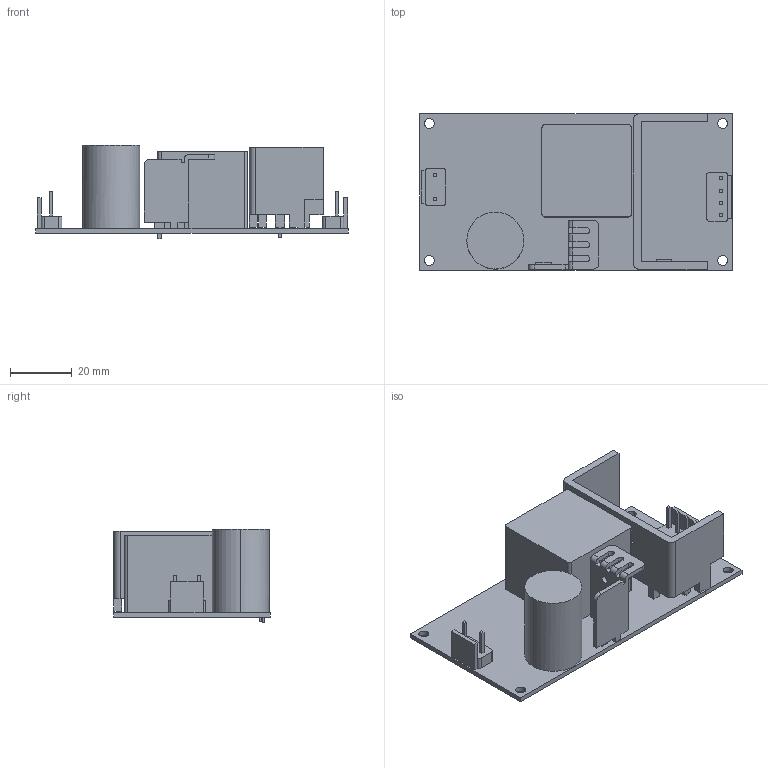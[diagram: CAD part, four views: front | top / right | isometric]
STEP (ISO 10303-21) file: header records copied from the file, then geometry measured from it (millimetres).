
FILE_DESCRIPTION(('Creo Elements/Direct Modeling STEP Export'),'2;1');
FILE_NAME('EPS-45.stp','2022-06-01T11:51:56',(''),(''),'PTC Creo Elements/Direct Modeling STEP processor for AP214 (Solid Model)','PTC Creo Elements/Direct Modeling 19.0E 27-Jun-2016 (C) Parametric Technology GmbH','');
FILE_SCHEMA(('AUTOMOTIVE_DESIGN { 1 0 10303 214 1 1 1 1 }'));
Length unit declared in the file: millimetre
Products named in the file (16): PCB_PRT_1_PRT.PRT; CN2-26510_PRT_PRT.PRT; CN2-26840_ASM_ASM.ASM; CN1-34090_PRT_PRT.PRT; CN1-34420_ASM_ASM.ASM; C5_PRT.PRT; T1_PRT.PRT; HS2_PRT.PRT; PIN2-2_PRT.PRT; _X2_88C5914D_X0_1_ASM.ASM; HS1_PRT.PRT; PIN2-2_1_PRT.PRT; _X2_88C5914D_X0_2_ASM.ASM; EPS-45_STP_ASM.ASM; EPS-45_STP.ASM; EPS-45.stp
Assembly tree (15 placements, depth 5):
  EPS-45.stp
    EPS-45_STP.ASM
      EPS-45_STP_ASM.ASM
        _X2_88C5914D_X0_2_ASM.ASM
          PIN2-2_1_PRT.PRT
          HS1_PRT.PRT
        _X2_88C5914D_X0_1_ASM.ASM
          PIN2-2_PRT.PRT
          HS2_PRT.PRT
        T1_PRT.PRT
        C5_PRT.PRT
        CN1-34420_ASM_ASM.ASM
          CN1-34090_PRT_PRT.PRT
        CN2-26840_ASM_ASM.ASM
          CN2-26510_PRT_PRT.PRT
        PCB_PRT_1_PRT.PRT
Bounding box: 101.6 x 50.81 x 30.4 mm (x, y, z)
Volume: 44593 mm3; surface area: 25631.9 mm2
Topology: 9 solids, 9 shells, 203 faces, 548 edges, 363 vertices
Faces by surface type: plane 159, cylinder 44
Entity records: 7400 total; most frequent: CARTESIAN_POINT 1138, ORIENTED_EDGE 1096, DIRECTION 1062, EDGE_CURVE 548, VECTOR 458, LINE 458, VERTEX_POINT 363, AXIS2_PLACEMENT_3D 302
